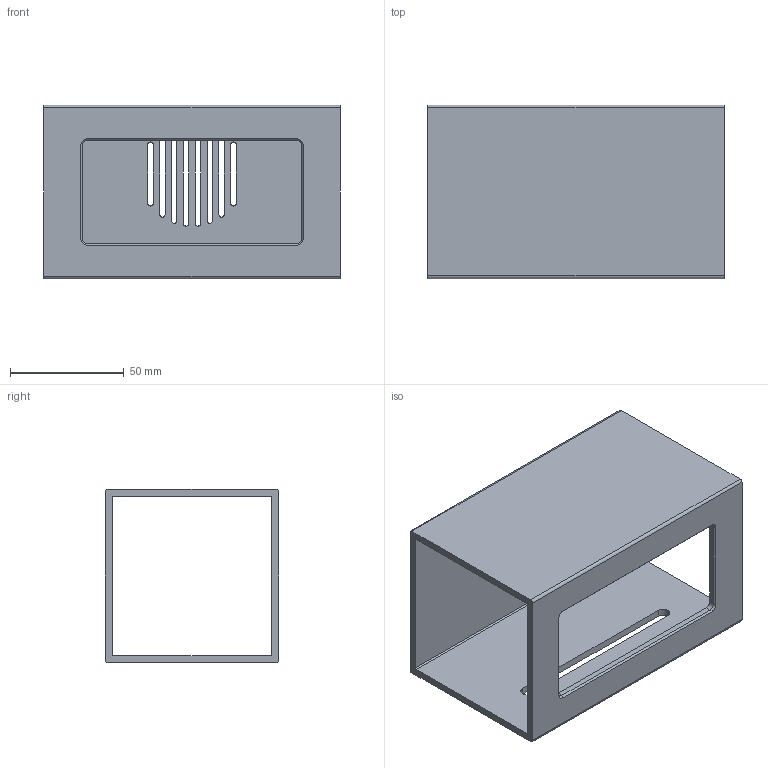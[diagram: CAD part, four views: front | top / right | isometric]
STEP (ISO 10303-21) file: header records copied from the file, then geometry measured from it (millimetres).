
FILE_DESCRIPTION(('Open CASCADE Model'),'2;1');
FILE_NAME('Open CASCADE Shape Model','2026-09-29T12:48:02',('Author'),( 'Open CASCADE'),'Open CASCADE STEP processor 7.9','Open CASCADE 7.9' ,'Unknown');
FILE_SCHEMA(('AUTOMOTIVE_DESIGN { 1 0 10303 214 1 1 1 1 }'));
Length unit declared in the file: millimetre
Products named in the file (1): Open CASCADE STEP translator 7.9 2
Bounding box: 130 x 76.2 x 76.2 mm (x, y, z)
Volume: 102596.2 mm3; surface area: 69599 mm2
Topology: 1 solids, 1 shells, 106 faces, 304 edges, 200 vertices
Faces by surface type: plane 54, cylinder 48, cone 4
Entity records: 7318 total; most frequent: CARTESIAN_POINT 1427, DIRECTION 1038, ORIENTED_EDGE 608, PCURVE 608, DEFINITIONAL_REPRESENTATION 608, LINE 532, VECTOR 532, EDGE_CURVE 304
